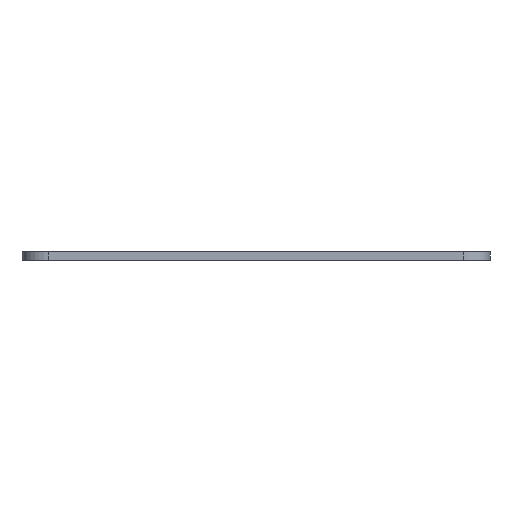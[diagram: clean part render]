
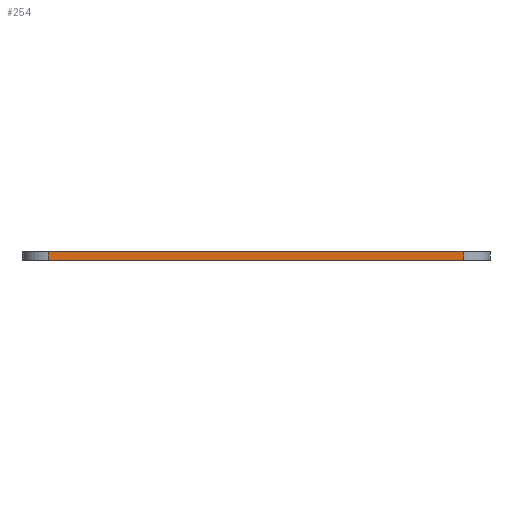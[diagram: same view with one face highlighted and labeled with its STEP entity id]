
A CAD part, left-side view. The second image highlights one B-rep face of the part: STEP entity #254.
In plain terms, the highlighted planar face has unit normal (-1, 0, 0).
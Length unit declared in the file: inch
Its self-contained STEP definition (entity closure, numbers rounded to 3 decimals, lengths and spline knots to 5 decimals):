
#22 = DIRECTION ( 'NONE',  ( 0., 0., 1. ) ) ;
#47 = DIRECTION ( 'NONE',  ( 0., -1., 0. ) ) ;
#50 = CARTESIAN_POINT ( 'NONE',  ( 0., 3.375, 0.0625 ) ) ;
#51 = ORIENTED_EDGE ( 'NONE', *, *, #710, .T. ) ;
#55 = LINE ( 'NONE', #58, #603 ) ;
#58 = CARTESIAN_POINT ( 'NONE',  ( 0., 0., 0. ) ) ;
#59 = AXIS2_PLACEMENT_3D ( 'NONE', #215, #135, #355 ) ;
#84 = VERTEX_POINT ( 'NONE', #508 ) ;
#135 = DIRECTION ( 'NONE',  ( 1., 0., 0. ) ) ;
#141 = LINE ( 'NONE', #50, #826 ) ;
#178 = CARTESIAN_POINT ( 'NONE',  ( 0., 3.18438, 0. ) ) ;
#185 = LINE ( 'NONE', #595, #352 ) ;
#215 = CARTESIAN_POINT ( 'NONE',  ( 0., 3.375, 0.0625 ) ) ;
#253 = ORIENTED_EDGE ( 'NONE', *, *, #621, .F. ) ;
#254 = ADVANCED_FACE ( 'NONE', ( #581 ), #759, .F. ) ;
#260 = DIRECTION ( 'NONE',  ( 0., 0., -1. ) ) ;
#318 = VECTOR ( 'NONE', #22, 39.37008 ) ;
#352 = VECTOR ( 'NONE', #260, 39.37008 ) ;
#355 = DIRECTION ( 'NONE',  ( 0., 0., -1. ) ) ;
#400 = EDGE_CURVE ( 'NONE', #869, #628, #474, .T. ) ;
#429 = ORIENTED_EDGE ( 'NONE', *, *, #577, .F. ) ;
#434 = CARTESIAN_POINT ( 'NONE',  ( 0., 3.18438, 0.0625 ) ) ;
#474 = LINE ( 'NONE', #434, #318 ) ;
#497 = VERTEX_POINT ( 'NONE', #776 ) ;
#508 = CARTESIAN_POINT ( 'NONE',  ( 0., 0.19062, 0.0625 ) ) ;
#577 = EDGE_CURVE ( 'NONE', #84, #497, #185, .T. ) ;
#581 = FACE_OUTER_BOUND ( 'NONE', #733, .T. ) ;
#595 = CARTESIAN_POINT ( 'NONE',  ( 0., 0.19062, 0.0625 ) ) ;
#603 = VECTOR ( 'NONE', #741, 39.37008 ) ;
#621 = EDGE_CURVE ( 'NONE', #628, #84, #141, .T. ) ;
#628 = VERTEX_POINT ( 'NONE', #802 ) ;
#710 = EDGE_CURVE ( 'NONE', #869, #497, #55, .T. ) ;
#733 = EDGE_LOOP ( 'NONE', ( #429, #253, #854, #51 ) ) ;
#741 = DIRECTION ( 'NONE',  ( 0., -1., 0. ) ) ;
#759 = PLANE ( 'NONE',  #59 ) ;
#776 = CARTESIAN_POINT ( 'NONE',  ( 0., 0.19062, 0. ) ) ;
#802 = CARTESIAN_POINT ( 'NONE',  ( 0., 3.18438, 0.0625 ) ) ;
#826 = VECTOR ( 'NONE', #47, 39.37008 ) ;
#854 = ORIENTED_EDGE ( 'NONE', *, *, #400, .F. ) ;
#869 = VERTEX_POINT ( 'NONE', #178 ) ;
